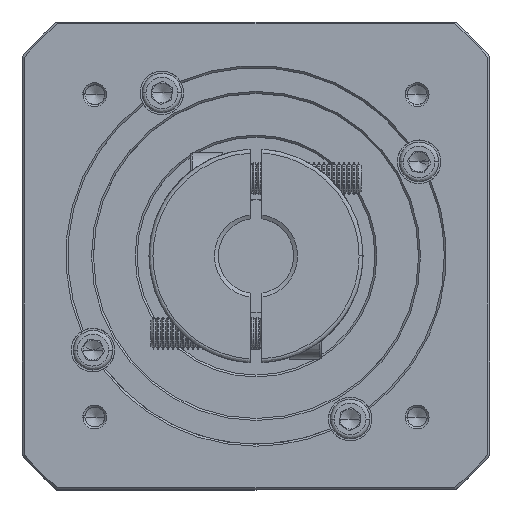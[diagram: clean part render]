
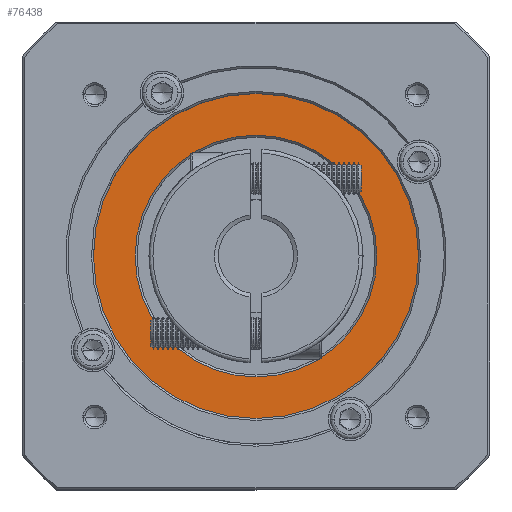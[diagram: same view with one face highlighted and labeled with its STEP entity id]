
A CAD part, top view. The second image highlights one B-rep face of the part: STEP entity #76438.
In plain terms, the highlighted planar face has unit normal (0, 0, 1).
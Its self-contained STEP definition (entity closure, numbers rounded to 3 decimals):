
#828 = DIRECTION ( 'NONE',  ( 0., 0., -1. ) ) ;
#3961 = CIRCLE ( 'NONE', #45483, 41. ) ;
#9271 = CARTESIAN_POINT ( 'NONE',  ( -35.246, -1.416, 219.502 ) ) ;
#16237 = AXIS2_PLACEMENT_3D ( 'NONE', #42779, #828, #96954 ) ;
#16711 = CARTESIAN_POINT ( 'NONE',  ( -35.246, -1.416, 219.502 ) ) ;
#20654 = EDGE_LOOP ( 'NONE', ( #119555, #27460 ) ) ;
#21628 = CIRCLE ( 'NONE', #16237, 30.5 ) ;
#26821 = DIRECTION ( 'NONE',  ( 1., 0., 0. ) ) ;
#27460 = ORIENTED_EDGE ( 'NONE', *, *, #44627, .T. ) ;
#31478 = CARTESIAN_POINT ( 'NONE',  ( 5.754, -1.416, 219.502 ) ) ;
#34403 = VERTEX_POINT ( 'NONE', #36071 ) ;
#35591 = ORIENTED_EDGE ( 'NONE', *, *, #118170, .T. ) ;
#36071 = CARTESIAN_POINT ( 'NONE',  ( -4.746, -1.416, 219.502 ) ) ;
#38266 = CARTESIAN_POINT ( 'NONE',  ( -35.246, -1.416, 219.502 ) ) ;
#40447 = CIRCLE ( 'NONE', #59039, 30.5 ) ;
#42444 = PLANE ( 'NONE',  #119268 ) ;
#42779 = CARTESIAN_POINT ( 'NONE',  ( -35.246, -1.416, 219.502 ) ) ;
#43286 = EDGE_LOOP ( 'NONE', ( #70993, #35591 ) ) ;
#43524 = VERTEX_POINT ( 'NONE', #90419 ) ;
#44627 = EDGE_CURVE ( 'NONE', #43524, #105173, #3961, .T. ) ;
#45321 = FACE_BOUND ( 'NONE', #43286, .T. ) ;
#45483 = AXIS2_PLACEMENT_3D ( 'NONE', #16711, #79325, #26821 ) ;
#48638 = AXIS2_PLACEMENT_3D ( 'NONE', #127336, #64323, #74927 ) ;
#59039 = AXIS2_PLACEMENT_3D ( 'NONE', #38266, #111776, #81875 ) ;
#62181 = DIRECTION ( 'NONE',  ( 0., 0., 1. ) ) ;
#64323 = DIRECTION ( 'NONE',  ( 0., 0., 1. ) ) ;
#67632 = VERTEX_POINT ( 'NONE', #95475 ) ;
#70993 = ORIENTED_EDGE ( 'NONE', *, *, #80067, .T. ) ;
#74927 = DIRECTION ( 'NONE',  ( 1., 0., 0. ) ) ;
#74994 = EDGE_CURVE ( 'NONE', #105173, #43524, #100136, .T. ) ;
#76438 = ADVANCED_FACE ( 'NONE', ( #88042, #45321 ), #42444, .T. ) ;
#79325 = DIRECTION ( 'NONE',  ( 0., 0., 1. ) ) ;
#80067 = EDGE_CURVE ( 'NONE', #34403, #67632, #40447, .T. ) ;
#81875 = DIRECTION ( 'NONE',  ( 1., 0., 0. ) ) ;
#88042 = FACE_OUTER_BOUND ( 'NONE', #20654, .T. ) ;
#90419 = CARTESIAN_POINT ( 'NONE',  ( -76.246, -1.416, 219.502 ) ) ;
#95475 = CARTESIAN_POINT ( 'NONE',  ( -65.746, -1.416, 219.502 ) ) ;
#96954 = DIRECTION ( 'NONE',  ( 1., 0., 0. ) ) ;
#100136 = CIRCLE ( 'NONE', #48638, 41. ) ;
#105173 = VERTEX_POINT ( 'NONE', #31478 ) ;
#111776 = DIRECTION ( 'NONE',  ( 0., 0., -1. ) ) ;
#118170 = EDGE_CURVE ( 'NONE', #67632, #34403, #21628, .T. ) ;
#119268 = AXIS2_PLACEMENT_3D ( 'NONE', #9271, #62181, #135783 ) ;
#119555 = ORIENTED_EDGE ( 'NONE', *, *, #74994, .T. ) ;
#127336 = CARTESIAN_POINT ( 'NONE',  ( -35.246, -1.416, 219.502 ) ) ;
#135783 = DIRECTION ( 'NONE',  ( 1., 0., 0. ) ) ;
